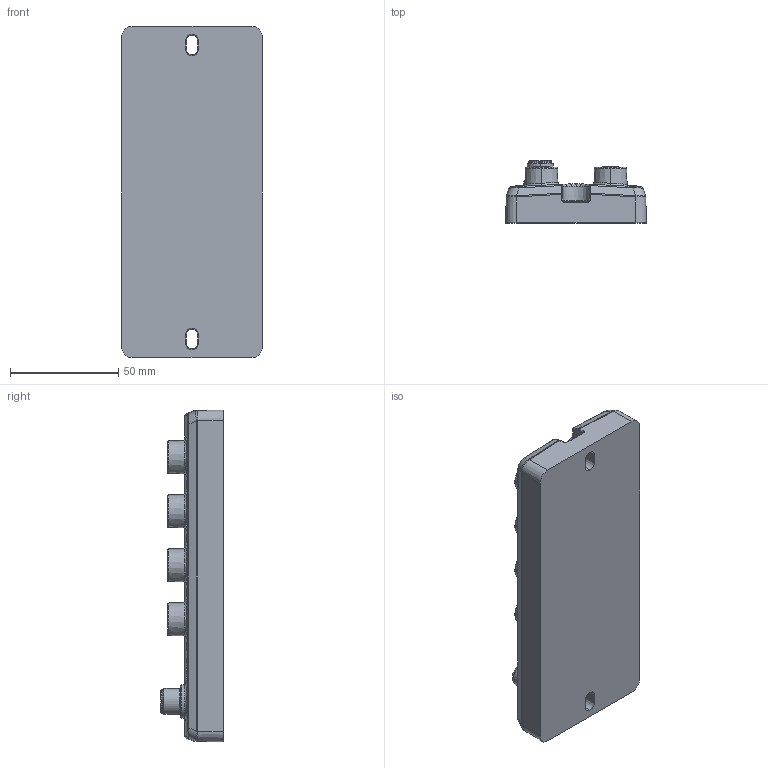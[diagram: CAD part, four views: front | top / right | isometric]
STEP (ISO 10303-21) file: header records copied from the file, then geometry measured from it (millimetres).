
FILE_DESCRIPTION((''),'2;1');
FILE_NAME('00BA11_230401','2023-04-01T',('PC'),(''),'PRO/ENGINEER BY PARAMETRIC TECHNOLOGY CORPORATION, 2009220','PRO/ENGINEER BY PARAMETRIC TECHNOLOGY CORPORATION, 2009220','');
FILE_SCHEMA(('CONFIG_CONTROL_DESIGN'));
Products named in the file (1): 00BA11_230401
Bounding box: 65 x 29 x 153.4 mm (x, y, z)
Volume: 173395.3 mm3; surface area: 42529.5 mm2
Topology: 1 solids, 1 shells, 2283 faces, 6068 edges, 3978 vertices
Faces by surface type: plane 1164, cylinder 592, cone 286, torus 106, extrusion 72, bspline 63
Entity records: 82451 total; most frequent: CARTESIAN_POINT 25254, ORIENTED_EDGE 12116, DIRECTION 11579, EDGE_CURVE 6058, VERTEX_POINT 3975, AXIS2_PLACEMENT_3D 3892, VECTOR 3795, LINE 3723
